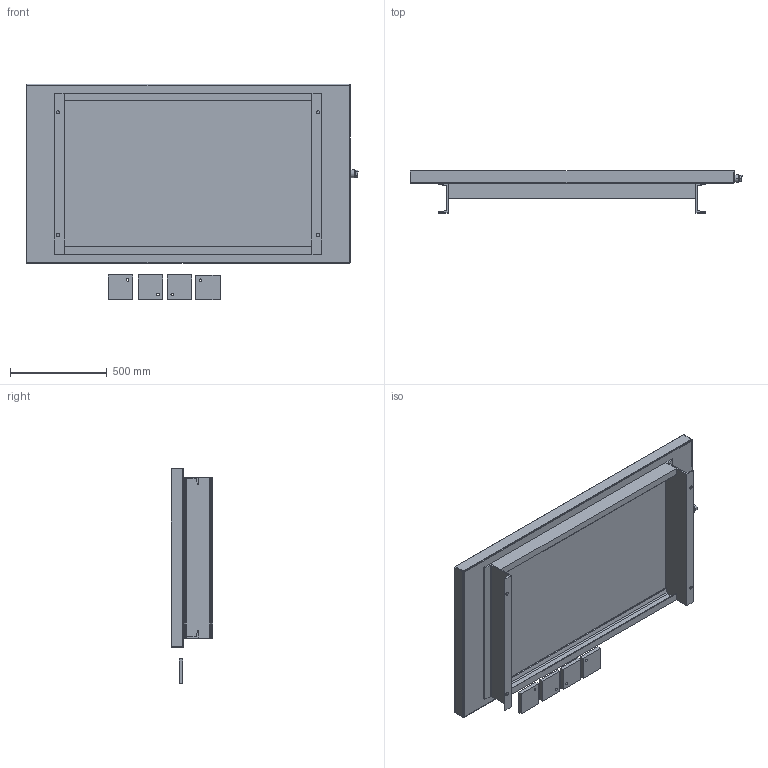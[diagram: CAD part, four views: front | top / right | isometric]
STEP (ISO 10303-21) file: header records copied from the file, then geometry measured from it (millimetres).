
FILE_DESCRIPTION (( 'STEP AP214' ), '1' );
FILE_NAME ('TDP-120-150-STEP.STEP', '2026-04-22T11:28:33', ( '' ), ( '' ), 'SwSTEP 2.0', 'SolidWorks 2026', '' );
FILE_SCHEMA (( 'AUTOMOTIVE_DESIGN' ));
Length unit declared in the file: inch
Products named in the file (7): TDP-120; TDP-PAD; C6-TDP-120_Default<As Welded>; #12 SAE PLUG; TDP-120-150-STEP; C3-TDP-120_Default<As Welded>; #12 SAE DRAIN
Assembly tree (11 placements, depth 2):
  TDP-120-150-STEP
    TDP-120
    C6-TDP-120_Default<As Welded>  x2
    C3-TDP-120_Default<As Welded>  x2
    #12 SAE DRAIN
    #12 SAE PLUG
    TDP-PAD  x4
Bounding box: 1717.67 x 215.9 x 1116.69 mm (x, y, z)
Volume: 12805292.3 mm3; surface area: 5413043.4 mm2
Topology: 11 solids, 11 shells, 163 faces, 378 edges, 240 vertices
Faces by surface type: plane 99, cylinder 50, bspline 8, cone 6
Entity records: 3752 total; most frequent: CARTESIAN_POINT 1105, DIRECTION 498, ORIENTED_EDGE 480, EDGE_CURVE 240, LINE 168, VECTOR 168, AXIS2_PLACEMENT_3D 165, VERTEX_POINT 148
